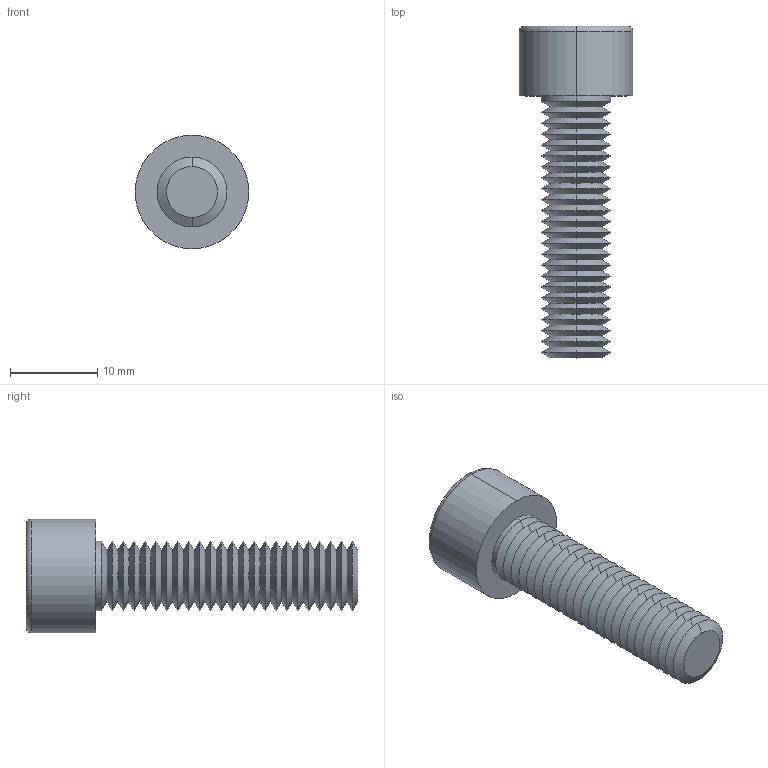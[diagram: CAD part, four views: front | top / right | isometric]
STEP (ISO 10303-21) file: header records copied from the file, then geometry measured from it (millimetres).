
FILE_DESCRIPTION (( 'STEP AP203' ), '1' );
FILE_NAME ('91N.080.0300.step', '2025-05-20T08:54:14', ( '' ), ( '' ), 'SwSTEP 2.0', 'SolidWorks 2019', '' );
FILE_SCHEMA (( 'CONFIG_CONTROL_DESIGN' ));
Length unit declared in the file: millimetre
Products named in the file (1): 91N.080.0300
Bounding box: 13 x 38 x 13 mm (x, y, z)
Volume: 1999.2 mm3; surface area: 1977.6 mm2
Topology: 1 solids, 1 shells, 124 faces, 247 edges, 125 vertices
Faces by surface type: cone 103, plane 15, cylinder 4, torus 2
Entity records: 3178 total; most frequent: DIRECTION 607, CARTESIAN_POINT 522, ORIENTED_EDGE 490, EDGE_CURVE 245, AXIS2_PLACEMENT_3D 244, EDGE_LOOP 126, VERTEX_POINT 125, FACE_OUTER_BOUND 124
